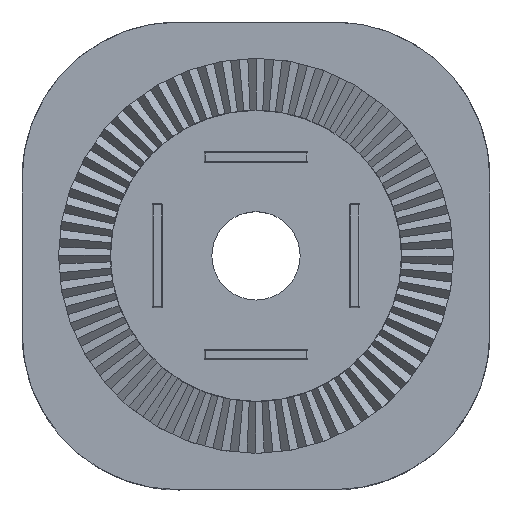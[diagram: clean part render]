
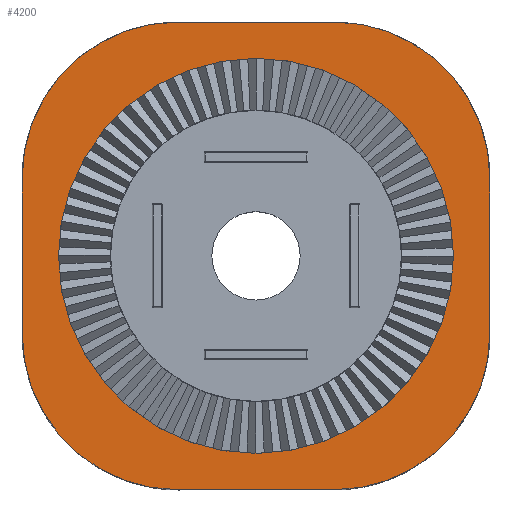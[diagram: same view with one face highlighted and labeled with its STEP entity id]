
A CAD part, top view. The second image highlights one B-rep face of the part: STEP entity #4200.
In plain terms, the highlighted planar face has unit normal (0, 0, 1).
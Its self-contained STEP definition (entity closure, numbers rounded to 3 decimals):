
#67 = EDGE_CURVE ( 'NONE', #6878, #6859, #7024, .T. ) ;
#281 = CARTESIAN_POINT ( 'NONE',  ( -908.256, 1972.644, 20. ) ) ;
#282 = DIRECTION ( 'NONE',  ( 0., 0., 1. ) ) ;
#283 = DIRECTION ( 'NONE',  ( 1., 0., 0. ) ) ;
#934 = CARTESIAN_POINT ( 'NONE',  ( -900.756, 1995.144, 20. ) ) ;
#940 = CARTESIAN_POINT ( 'NONE',  ( -885.756, 1980.144, 20. ) ) ;
#945 = CARTESIAN_POINT ( 'NONE',  ( -930.756, 1980.144, 20. ) ) ;
#946 = CARTESIAN_POINT ( 'NONE',  ( -915.756, 1995.144, 20. ) ) ;
#977 = CARTESIAN_POINT ( 'NONE',  ( -915.756, 1950.144, 20. ) ) ;
#978 = CARTESIAN_POINT ( 'NONE',  ( -930.756, 1965.144, 20. ) ) ;
#1167 = CARTESIAN_POINT ( 'NONE',  ( -900.756, 1965.144, 20. ) ) ;
#1175 = FACE_BOUND ( 'NONE', #2658, .T. ) ;
#1176 = FACE_OUTER_BOUND ( 'NONE', #2662, .T. ) ;
#1177 = PLANE ( 'NONE',  #2794 ) ;
#1179 = DIRECTION ( 'NONE',  ( 0., 0., 1. ) ) ;
#1180 = DIRECTION ( 'NONE',  ( 1., 0., 0. ) ) ;
#1779 = EDGE_CURVE ( 'NONE', #6859, #6878, #7139, .T. ) ;
#1786 = EDGE_CURVE ( 'NONE', #6518, #6532, #7143, .T. ) ;
#1790 = EDGE_CURVE ( 'NONE', #6532, #2249, #7776, .T. ) ;
#1794 = EDGE_CURVE ( 'NONE', #2249, #2243, #7157, .T. ) ;
#1797 = EDGE_CURVE ( 'NONE', #2243, #2255, #7831, .T. ) ;
#1801 = EDGE_CURVE ( 'NONE', #2255, #2254, #7163, .T. ) ;
#1804 = EDGE_CURVE ( 'NONE', #2254, #2287, #7879, .T. ) ;
#1808 = EDGE_CURVE ( 'NONE', #2287, #2286, #7168, .T. ) ;
#1809 = EDGE_CURVE ( 'NONE', #2286, #6518, #7885, .T. ) ;
#2243 = VERTEX_POINT ( 'NONE', #934 ) ;
#2249 = VERTEX_POINT ( 'NONE', #940 ) ;
#2254 = VERTEX_POINT ( 'NONE', #945 ) ;
#2255 = VERTEX_POINT ( 'NONE', #946 ) ;
#2286 = VERTEX_POINT ( 'NONE', #977 ) ;
#2287 = VERTEX_POINT ( 'NONE', #978 ) ;
#2658 = EDGE_LOOP ( 'NONE', ( #3730, #3731 ) ) ;
#2662 = EDGE_LOOP ( 'NONE', ( #3737, #3642, #3756, #3755, #3640, #3734, #3736, #3738 ) ) ;
#2794 = AXIS2_PLACEMENT_3D ( 'NONE', #1167, #1179, #1180 ) ;
#3640 = ORIENTED_EDGE ( 'NONE', *, *, #1801, .T. ) ;
#3642 = ORIENTED_EDGE ( 'NONE', *, *, #1790, .T. ) ;
#3730 = ORIENTED_EDGE ( 'NONE', *, *, #1779, .F. ) ;
#3731 = ORIENTED_EDGE ( 'NONE', *, *, #67, .F. ) ;
#3734 = ORIENTED_EDGE ( 'NONE', *, *, #1804, .T. ) ;
#3736 = ORIENTED_EDGE ( 'NONE', *, *, #1808, .T. ) ;
#3737 = ORIENTED_EDGE ( 'NONE', *, *, #1786, .T. ) ;
#3738 = ORIENTED_EDGE ( 'NONE', *, *, #1809, .T. ) ;
#3755 = ORIENTED_EDGE ( 'NONE', *, *, #1797, .T. ) ;
#3756 = ORIENTED_EDGE ( 'NONE', *, *, #1794, .T. ) ;
#4200 = ADVANCED_FACE ( 'NONE', ( #1175, #1176 ), #1177, .T. ) ;
#4614 = CARTESIAN_POINT ( 'NONE',  ( -900.756, 1950.144, 20. ) ) ;
#4715 = CARTESIAN_POINT ( 'NONE',  ( -885.756, 1965.144, 20. ) ) ;
#4786 = CARTESIAN_POINT ( 'NONE',  ( -889.256, 1972.644, 20. ) ) ;
#4803 = CARTESIAN_POINT ( 'NONE',  ( -927.256, 1972.644, 20. ) ) ;
#6518 = VERTEX_POINT ( 'NONE', #4614 ) ;
#6532 = VERTEX_POINT ( 'NONE', #4715 ) ;
#6859 = VERTEX_POINT ( 'NONE', #4786 ) ;
#6878 = VERTEX_POINT ( 'NONE', #4803 ) ;
#7024 = CIRCLE ( 'NONE', #7025, 19. ) ;
#7025 = AXIS2_PLACEMENT_3D ( 'NONE', #281, #282, #283 ) ;
#7139 = CIRCLE ( 'NONE', #7141, 19. ) ;
#7141 = AXIS2_PLACEMENT_3D ( 'NONE', #7731, #7732, #7733 ) ;
#7143 = CIRCLE ( 'NONE', #7149, 15. ) ;
#7148 = VECTOR ( 'NONE', #7790, 1000. ) ;
#7149 = AXIS2_PLACEMENT_3D ( 'NONE', #7778, #7779, #7780 ) ;
#7152 = VECTOR ( 'NONE', #7841, 1000. ) ;
#7157 = CIRCLE ( 'NONE', #7158, 15. ) ;
#7158 = AXIS2_PLACEMENT_3D ( 'NONE', #7832, #7833, #7834 ) ;
#7163 = CIRCLE ( 'NONE', #7166, 15. ) ;
#7164 = VECTOR ( 'NONE', #7889, 1000. ) ;
#7166 = AXIS2_PLACEMENT_3D ( 'NONE', #7880, #7881, #7882 ) ;
#7168 = CIRCLE ( 'NONE', #7174, 15. ) ;
#7172 = VECTOR ( 'NONE', #7933, 1000. ) ;
#7174 = AXIS2_PLACEMENT_3D ( 'NONE', #7930, #7931, #7932 ) ;
#7731 = CARTESIAN_POINT ( 'NONE',  ( -908.256, 1972.644, 20. ) ) ;
#7732 = DIRECTION ( 'NONE',  ( 0., 0., 1. ) ) ;
#7733 = DIRECTION ( 'NONE',  ( 1., 0., 0. ) ) ;
#7776 = LINE ( 'NONE', #7789, #7148 ) ;
#7778 = CARTESIAN_POINT ( 'NONE',  ( -900.756, 1965.144, 20. ) ) ;
#7779 = DIRECTION ( 'NONE',  ( 0., 0., 1. ) ) ;
#7780 = DIRECTION ( 'NONE',  ( 1., 0., 0. ) ) ;
#7789 = CARTESIAN_POINT ( 'NONE',  ( -885.756, 1965.144, 20. ) ) ;
#7790 = DIRECTION ( 'NONE',  ( 0., 1., 0. ) ) ;
#7831 = LINE ( 'NONE', #7840, #7152 ) ;
#7832 = CARTESIAN_POINT ( 'NONE',  ( -900.756, 1980.144, 20. ) ) ;
#7833 = DIRECTION ( 'NONE',  ( 0., 0., 1. ) ) ;
#7834 = DIRECTION ( 'NONE',  ( 1., 0., 0. ) ) ;
#7840 = CARTESIAN_POINT ( 'NONE',  ( -900.756, 1995.144, 20. ) ) ;
#7841 = DIRECTION ( 'NONE',  ( -1., 0., 0. ) ) ;
#7878 = CARTESIAN_POINT ( 'NONE',  ( -915.756, 1950.144, 20. ) ) ;
#7879 = LINE ( 'NONE', #7888, #7164 ) ;
#7880 = CARTESIAN_POINT ( 'NONE',  ( -915.756, 1980.144, 20. ) ) ;
#7881 = DIRECTION ( 'NONE',  ( 0., 0., 1. ) ) ;
#7882 = DIRECTION ( 'NONE',  ( 1., 0., 0. ) ) ;
#7885 = LINE ( 'NONE', #7878, #7172 ) ;
#7888 = CARTESIAN_POINT ( 'NONE',  ( -930.756, 1980.144, 20. ) ) ;
#7889 = DIRECTION ( 'NONE',  ( 0., -1., 0. ) ) ;
#7930 = CARTESIAN_POINT ( 'NONE',  ( -915.756, 1965.144, 20. ) ) ;
#7931 = DIRECTION ( 'NONE',  ( 0., 0., 1. ) ) ;
#7932 = DIRECTION ( 'NONE',  ( 1., 0., 0. ) ) ;
#7933 = DIRECTION ( 'NONE',  ( 1., 0., 0. ) ) ;
